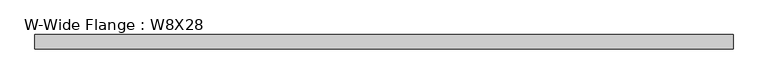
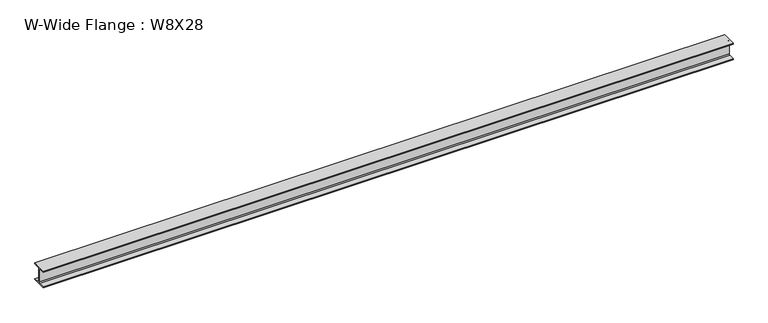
"""IFC4 building model written with IfcOpenShell, lengths in millimetres: beam geometry, W-Wide Flange : W8X28."""

from ifc_helpers import new_model, si_unit, point, frame, frame_2d, origin, place, context, project, spatial, polyline, circle_curve, trimmed, segment, composite_curve, outline, extrude, source, transform, mapped, element, save


def w_wide_flange_w8x28_d7e5059d(model_context):
    return source(origin(), model_context, "Body", "SweptSolid", [
        extrude(outline(composite_curve([segment(polyline([(83.058, -90.551), (83.058, -102.362), (-83.058, -102.362), (-83.058, -90.551), (-15.621, -90.551)]), True, "CONTINUOUS"), segment(trimmed(circle_curve(frame_2d((-15.621, -78.5495)), 12.0015), [point((-15.621, -90.551))], [point((-3.6195, -78.5495))], True, "CARTESIAN"), True, "CONTINUOUS"), segment(polyline([(-3.6195, -78.5495), (-3.6195, 78.5495)]), True, "CONTINUOUS"), segment(trimmed(circle_curve(frame_2d((-15.621, 78.5495)), 12.0015), [point((-3.6195, 78.5495))], [point((-15.621, 90.551))], True, "CARTESIAN"), True, "CONTINUOUS"), segment(polyline([(-15.621, 90.551), (-83.058, 90.551), (-83.058, 102.362), (83.058, 102.362), (83.058, 90.551), (15.621, 90.551)]), True, "CONTINUOUS"), segment(trimmed(circle_curve(frame_2d((15.621, 78.5495)), 12.0015), [point((15.621, 90.551))], [point((3.6195, 78.5495))], True, "CARTESIAN"), True, "CONTINUOUS"), segment(polyline([(3.6195, 78.5495), (3.6195, -78.5495)]), True, "CONTINUOUS"), segment(trimmed(circle_curve(frame_2d((15.621, -78.5495)), 12.0015), [point((3.6195, -78.5495))], [point((15.621, -90.551))], True, "CARTESIAN"), True, "CONTINUOUS"), segment(polyline([(15.621, -90.551), (83.058, -90.551)]), True, "CONTINUOUS")], self_intersect=False)), frame((-4030.9795, 0.0, 0.0), z_axis=(1.0, 0.0, 0.0), x_axis=(0.0, 1.0, 0.0)), (0.0, 0.0, 1.0), 8061.959),
    ])


if __name__ == "__main__":
    model = new_model("IFC4")
    model_context = context("Model", 3, world=origin())
    ifc_project = project(units=[si_unit("LENGTHUNIT", "METRE", prefix="MILLI")], contexts=[model_context])
    site = spatial("IfcSite", under=ifc_project)
    building = spatial("IfcBuilding", under=site)
    placement = place(None, origin())
    w_wide_flange_w8x28_shape = w_wide_flange_w8x28_d7e5059d(model_context)
    element("IfcBeam", 1, ObjectType="W-Wide Flange : W8X28", at=placement, inside=building, context=model_context, shape_type="MappedRepresentation", body=[
        mapped(w_wide_flange_w8x28_shape, transform((0.0, 0.0, 0.0), x_axis=(1.0, 0.0, 0.0), y_axis=(0.0, 1.0, 0.0), z_axis=(0.0, 0.0, 1.0))),
    ])
    save(model, "model.ifc")
